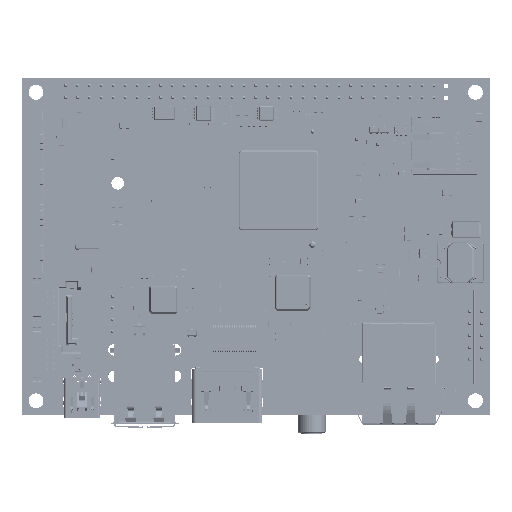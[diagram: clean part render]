
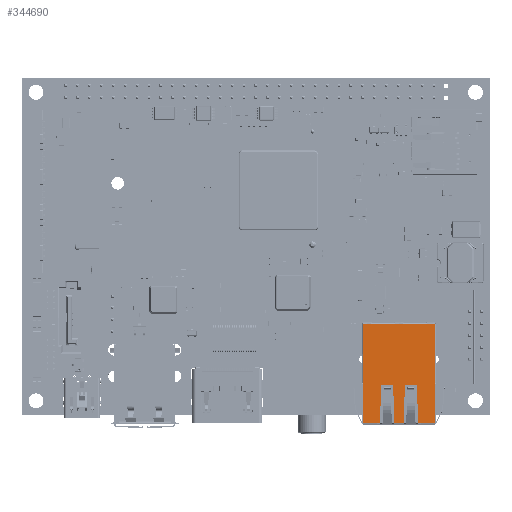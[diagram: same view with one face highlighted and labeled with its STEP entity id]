
A CAD part, top view. The second image highlights one B-rep face of the part: STEP entity #344690.
In plain terms, the highlighted planar face has unit normal (0, 0, 1).
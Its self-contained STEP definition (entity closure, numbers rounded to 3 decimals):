
#153387=CIRCLE('',#304474,0.2);
#153389=CIRCLE('',#304476,0.2);
#153393=CIRCLE('',#304480,0.2);
#153397=CIRCLE('',#304484,0.2);
#153498=CIRCLE('',#304609,0.25);
#153500=CIRCLE('',#304611,0.25);
#153512=CIRCLE('',#304623,0.25);
#153514=CIRCLE('',#304625,0.25);
#251377=FACE_OUTER_BOUND('',#272859,.T.);
#272859=EDGE_LOOP('',(#425010,#425011,#425012,#425013,#425014,#425015,#425016,
#425017,#425018,#425019,#425020,#425021,#425022,#425023,#425024,#425025,
#425026,#425027,#425028,#425029,#425030,#425031,#425032,#425033,#425034,
#425035));
#304128=AXIS2_PLACEMENT_3D('',#947330,#767035,#767036);
#304474=AXIS2_PLACEMENT_3D('',#950903,#767846,#767847);
#304476=AXIS2_PLACEMENT_3D('',#950905,#767863,#767864);
#304480=AXIS2_PLACEMENT_3D('',#950909,#767892,#767893);
#304484=AXIS2_PLACEMENT_3D('',#950913,#767904,#767905);
#304609=AXIS2_PLACEMENT_3D('',#951038,#768687,#768688);
#304611=AXIS2_PLACEMENT_3D('',#951040,#768695,#768696);
#304623=AXIS2_PLACEMENT_3D('',#951052,#768793,#768794);
#304625=AXIS2_PLACEMENT_3D('',#951054,#768797,#768798);
#324692=PLANE('',#304128);
#344690=ADVANCED_FACE('0:1288',(#251377),#324692,.F.);
#425010=ORIENTED_EDGE('',*,*,#506492,.T.);
#425011=ORIENTED_EDGE('',*,*,#506105,.T.);
#425012=ORIENTED_EDGE('',*,*,#506489,.T.);
#425013=ORIENTED_EDGE('',*,*,#506120,.T.);
#425014=ORIENTED_EDGE('',*,*,#506496,.T.);
#425015=ORIENTED_EDGE('',*,*,#507036,.F.);
#425016=ORIENTED_EDGE('',*,*,#506996,.F.);
#425017=ORIENTED_EDGE('',*,*,#506896,.F.);
#425018=ORIENTED_EDGE('',*,*,#506872,.T.);
#425019=ORIENTED_EDGE('',*,*,#506999,.T.);
#425020=ORIENTED_EDGE('',*,*,#506903,.F.);
#425021=ORIENTED_EDGE('',*,*,#506907,.T.);
#425022=ORIENTED_EDGE('',*,*,#506813,.T.);
#425023=ORIENTED_EDGE('',*,*,#507001,.T.);
#425024=ORIENTED_EDGE('',*,*,#506911,.T.);
#425025=ORIENTED_EDGE('',*,*,#506913,.T.);
#425026=ORIENTED_EDGE('',*,*,#506802,.T.);
#425027=ORIENTED_EDGE('',*,*,#506792,.T.);
#425028=ORIENTED_EDGE('',*,*,#506919,.T.);
#425029=ORIENTED_EDGE('',*,*,#507037,.F.);
#425030=ORIENTED_EDGE('',*,*,#506485,.F.);
#425031=ORIENTED_EDGE('',*,*,#506153,.T.);
#425032=ORIENTED_EDGE('',*,*,#506478,.F.);
#425033=ORIENTED_EDGE('',*,*,#506161,.T.);
#425034=ORIENTED_EDGE('',*,*,#506479,.F.);
#425035=ORIENTED_EDGE('',*,*,#507035,.F.);
#506105=EDGE_CURVE('0:1810',#672039,#672038,#153387,.T.);
#506120=EDGE_CURVE('0:1858',#672043,#672042,#153389,.T.);
#506153=EDGE_CURVE('0:1957',#672063,#672062,#153393,.T.);
#506161=EDGE_CURVE('0:1981',#672071,#672070,#153397,.T.);
#506478=EDGE_CURVE('0:2932',#672071,#672062,#624119,.T.);
#506479=EDGE_CURVE('0:2935',#672256,#672070,#624120,.T.);
#506485=EDGE_CURVE('0:2953',#672063,#672261,#624124,.T.);
#506489=EDGE_CURVE('0:2965',#672038,#672043,#624126,.T.);
#506492=EDGE_CURVE('0:2974',#672265,#672039,#624129,.T.);
#506496=EDGE_CURVE('0:2986',#672042,#672268,#624131,.T.);
#506792=EDGE_CURVE('0:3910',#672462,#672465,#624351,.T.);
#506802=EDGE_CURVE('0:3940',#672468,#672462,#624359,.T.);
#506813=EDGE_CURVE('0:3973',#672476,#672474,#624365,.T.);
#506872=EDGE_CURVE('0:4150',#672506,#672507,#624403,.T.);
#506896=EDGE_CURVE('0:4222',#672506,#672522,#624419,.T.);
#506903=EDGE_CURVE('0:4243',#672524,#672525,#624424,.T.);
#506907=EDGE_CURVE('0:4255',#672524,#672476,#153498,.T.);
#506911=EDGE_CURVE('0:4267',#672531,#672530,#624430,.T.);
#506913=EDGE_CURVE('0:4273',#672530,#672468,#153500,.T.);
#506919=EDGE_CURVE('0:4291',#672465,#672535,#624434,.T.);
#506996=EDGE_CURVE('0:4540',#672522,#672557,#624505,.T.);
#506999=EDGE_CURVE('0:4549',#672507,#672525,#153512,.T.);
#507001=EDGE_CURVE('0:4555',#672474,#672531,#153514,.T.);
#507035=EDGE_CURVE('0:4657',#672265,#672256,#624534,.T.);
#507036=EDGE_CURVE('0:4660',#672557,#672268,#624535,.T.);
#507037=EDGE_CURVE('0:4663',#672261,#672535,#624536,.T.);
#564690=VECTOR('',#768194,0.001);
#564691=VECTOR('',#768195,0.001);
#564695=VECTOR('',#768203,0.001);
#564697=VECTOR('',#768209,0.001);
#564700=VECTOR('',#768212,0.001);
#564702=VECTOR('',#768218,0.001);
#564922=VECTOR('',#768570,0.001);
#564930=VECTOR('',#768580,0.001);
#564936=VECTOR('',#768588,0.001);
#564974=VECTOR('',#768654,0.001);
#564990=VECTOR('',#768676,0.001);
#564995=VECTOR('',#768683,0.001);
#565001=VECTOR('',#768693,0.001);
#565005=VECTOR('',#768705,0.001);
#565076=VECTOR('',#768788,0.001);
#565105=VECTOR('',#768837,0.001);
#565106=VECTOR('',#768838,0.001);
#565107=VECTOR('',#768839,0.001);
#624119=LINE('',#948688,#564690);
#624120=LINE('',#948690,#564691);
#624124=LINE('',#948699,#564695);
#624126=LINE('',#948703,#564697);
#624129=LINE('',#948708,#564700);
#624131=LINE('',#948713,#564702);
#624351=LINE('',#949180,#564922);
#624359=LINE('',#949204,#564930);
#624365=LINE('',#949264,#564936);
#624403=LINE('',#949387,#564974);
#624419=LINE('',#949443,#564990);
#624424=LINE('',#949455,#564995);
#624430=LINE('',#949467,#565001);
#624434=LINE('',#949475,#565005);
#624505=LINE('',#949568,#565076);
#624534=LINE('',#949601,#565105);
#624535=LINE('',#949602,#565106);
#624536=LINE('',#949603,#565107);
#672038=VERTEX_POINT('',#947919);
#672039=VERTEX_POINT('',#947921);
#672042=VERTEX_POINT('',#947936);
#672043=VERTEX_POINT('',#947938);
#672062=VERTEX_POINT('',#948013);
#672063=VERTEX_POINT('',#948015);
#672070=VERTEX_POINT('',#948025);
#672071=VERTEX_POINT('',#948027);
#672256=VERTEX_POINT('',#948689);
#672261=VERTEX_POINT('',#948698);
#672265=VERTEX_POINT('',#948707);
#672268=VERTEX_POINT('',#948712);
#672462=VERTEX_POINT('',#949162);
#672465=VERTEX_POINT('',#949179);
#672468=VERTEX_POINT('',#949203);
#672474=VERTEX_POINT('',#949251);
#672476=VERTEX_POINT('',#949263);
#672506=VERTEX_POINT('',#949375);
#672507=VERTEX_POINT('',#949376);
#672522=VERTEX_POINT('',#949442);
#672524=VERTEX_POINT('',#949453);
#672525=VERTEX_POINT('',#949454);
#672530=VERTEX_POINT('',#949464);
#672531=VERTEX_POINT('',#949466);
#672535=VERTEX_POINT('',#949474);
#672557=VERTEX_POINT('',#949567);
#767035=DIRECTION('',(0.,0.,-1.));
#767036=DIRECTION('',(-1.,0.,0.));
#767846=DIRECTION('',(0.,0.,-1.));
#767847=DIRECTION('',(0.,-1.,0.));
#767863=DIRECTION('',(0.,0.,-1.));
#767864=DIRECTION('',(0.,-1.,0.));
#767892=DIRECTION('',(0.,0.,-1.));
#767893=DIRECTION('',(0.,-1.,0.));
#767904=DIRECTION('',(0.,0.,-1.));
#767905=DIRECTION('',(0.,-1.,0.));
#768194=DIRECTION('',(-1.,0.,0.));
#768195=DIRECTION('',(-0.029,1.,0.));
#768203=DIRECTION('',(-0.029,-1.,0.));
#768209=DIRECTION('',(1.,0.,0.));
#768212=DIRECTION('',(0.029,1.,0.));
#768218=DIRECTION('',(0.029,-1.,0.));
#768570=DIRECTION('',(0.,-1.,0.));
#768580=DIRECTION('',(-1.,0.,0.));
#768588=DIRECTION('',(-1.,0.,0.));
#768654=DIRECTION('',(-1.,0.,0.));
#768676=DIRECTION('',(0.,-1.,0.));
#768683=DIRECTION('',(1.,0.,0.));
#768687=DIRECTION('',(0.,0.,-1.));
#768688=DIRECTION('',(0.,-1.,0.));
#768693=DIRECTION('',(-1.,0.,0.));
#768695=DIRECTION('',(0.,0.,-1.));
#768696=DIRECTION('',(0.,-1.,0.));
#768705=DIRECTION('',(0.,-1.,0.));
#768788=DIRECTION('',(0.,-1.,0.));
#768793=DIRECTION('',(0.,0.,-1.));
#768794=DIRECTION('',(0.,-1.,0.));
#768797=DIRECTION('',(0.,0.,-1.));
#768798=DIRECTION('',(0.,-1.,0.));
#768837=DIRECTION('',(-1.,0.,0.));
#768838=DIRECTION('',(-1.,0.,0.));
#768839=DIRECTION('',(-1.,0.,0.));
#947330=CARTESIAN_POINT('',(7.64,-0.006,13.937));
#947919=CARTESIAN_POINT('',(1.444,8.494,13.937));
#947921=CARTESIAN_POINT('',(1.244,8.3,13.937));
#947936=CARTESIAN_POINT('',(3.836,8.3,13.937));
#947938=CARTESIAN_POINT('',(3.636,8.494,13.937));
#948013=CARTESIAN_POINT('',(-3.636,8.494,13.937));
#948015=CARTESIAN_POINT('',(-3.836,8.3,13.937));
#948025=CARTESIAN_POINT('',(-1.244,8.3,13.937));
#948027=CARTESIAN_POINT('',(-1.444,8.494,13.937));
#948688=CARTESIAN_POINT('',(-1.25,8.494,13.937));
#948689=CARTESIAN_POINT('',(-1.009,0.294,13.937));
#948690=CARTESIAN_POINT('',(-1.,-0.006,13.937));
#948698=CARTESIAN_POINT('',(-4.071,0.294,13.937));
#948699=CARTESIAN_POINT('',(-3.83,8.494,13.937));
#948703=CARTESIAN_POINT('',(1.25,8.494,13.937));
#948707=CARTESIAN_POINT('',(1.009,0.294,13.937));
#948708=CARTESIAN_POINT('',(1.,-0.006,13.937));
#948712=CARTESIAN_POINT('',(4.071,0.294,13.937));
#948713=CARTESIAN_POINT('',(3.83,8.494,13.937));
#949162=CARTESIAN_POINT('',(-7.64,21.534,13.937));
#949179=CARTESIAN_POINT('',(-7.64,8.834,13.937));
#949180=CARTESIAN_POINT('',(-7.64,-0.006,13.937));
#949203=CARTESIAN_POINT('',(-6.013,21.534,13.937));
#949204=CARTESIAN_POINT('',(7.64,21.534,13.937));
#949251=CARTESIAN_POINT('',(-0.787,21.534,13.937));
#949263=CARTESIAN_POINT('',(0.787,21.534,13.937));
#949264=CARTESIAN_POINT('',(7.64,21.534,13.937));
#949375=CARTESIAN_POINT('',(7.64,21.534,13.937));
#949376=CARTESIAN_POINT('',(6.013,21.534,13.937));
#949387=CARTESIAN_POINT('',(7.64,21.534,13.937));
#949442=CARTESIAN_POINT('',(7.64,8.834,13.937));
#949443=CARTESIAN_POINT('',(7.64,-0.006,13.937));
#949453=CARTESIAN_POINT('',(1.,21.414,13.937));
#949454=CARTESIAN_POINT('',(5.8,21.414,13.937));
#949455=CARTESIAN_POINT('',(7.64,21.414,13.937));
#949464=CARTESIAN_POINT('',(-5.8,21.414,13.937));
#949466=CARTESIAN_POINT('',(-1.,21.414,13.937));
#949467=CARTESIAN_POINT('',(7.64,21.414,13.937));
#949474=CARTESIAN_POINT('',(-7.64,0.294,13.937));
#949475=CARTESIAN_POINT('',(-7.64,-0.006,13.937));
#949567=CARTESIAN_POINT('',(7.64,0.294,13.937));
#949568=CARTESIAN_POINT('',(7.64,-0.006,13.937));
#949601=CARTESIAN_POINT('',(7.64,0.294,13.937));
#949602=CARTESIAN_POINT('',(7.64,0.294,13.937));
#949603=CARTESIAN_POINT('',(7.64,0.294,13.937));
#950903=CARTESIAN_POINT('',(1.444,8.294,13.937));
#950905=CARTESIAN_POINT('',(3.636,8.294,13.937));
#950909=CARTESIAN_POINT('',(-3.636,8.294,13.937));
#950913=CARTESIAN_POINT('',(-1.444,8.294,13.937));
#951038=CARTESIAN_POINT('',(1.,21.664,13.937));
#951040=CARTESIAN_POINT('',(-5.8,21.664,13.937));
#951052=CARTESIAN_POINT('',(5.8,21.664,13.937));
#951054=CARTESIAN_POINT('',(-1.,21.664,13.937));
